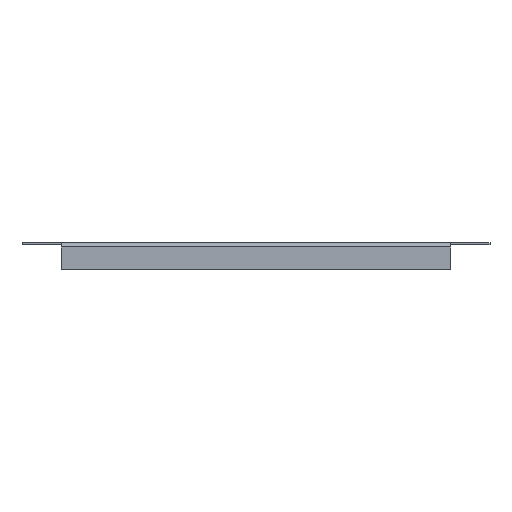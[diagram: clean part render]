
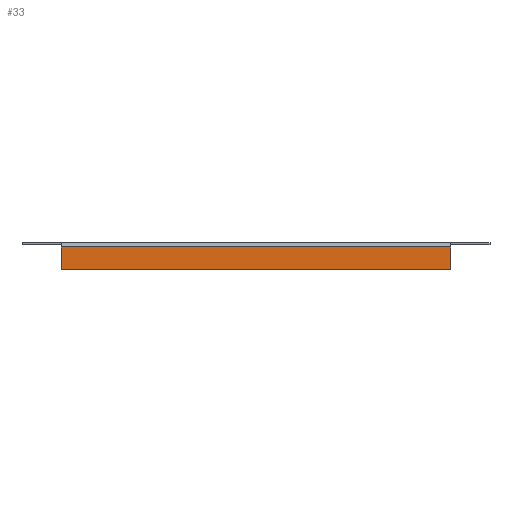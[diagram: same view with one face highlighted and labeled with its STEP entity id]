
A CAD part, front view. The second image highlights one B-rep face of the part: STEP entity #33.
In plain terms, the highlighted planar face has unit normal (0, -1, 0).
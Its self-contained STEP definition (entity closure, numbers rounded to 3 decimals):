
#13 = VERTEX_POINT ( 'NONE', #706 ) ;
#24 = VECTOR ( 'NONE', #1071, 1000. ) ;
#33 = ADVANCED_FACE ( 'NONE', ( #827 ), #1054, .F. ) ;
#48 = VECTOR ( 'NONE', #841, 1000. ) ;
#72 = CARTESIAN_POINT ( 'NONE',  ( -110.2, -74.5, -1.2 ) ) ;
#96 = CARTESIAN_POINT ( 'NONE',  ( 110.2, -74.5, -1.2 ) ) ;
#132 = CARTESIAN_POINT ( 'NONE',  ( -110.2, -74.5, -13.8 ) ) ;
#149 = CARTESIAN_POINT ( 'NONE',  ( 110.2, -74.5, 0. ) ) ;
#151 = DIRECTION ( 'NONE',  ( 1., 0., 0. ) ) ;
#192 = LINE ( 'NONE', #439, #24 ) ;
#219 = EDGE_CURVE ( 'NONE', #13, #996, #1156, .T. ) ;
#240 = DIRECTION ( 'NONE',  ( 0., 1., 0. ) ) ;
#280 = VECTOR ( 'NONE', #584, 1000. ) ;
#391 = CARTESIAN_POINT ( 'NONE',  ( 110.2, -74.5, 0. ) ) ;
#423 = DIRECTION ( 'NONE',  ( 0., 0., 1. ) ) ;
#427 = VERTEX_POINT ( 'NONE', #631 ) ;
#439 = CARTESIAN_POINT ( 'NONE',  ( 110.2, -74.5, -13.8 ) ) ;
#487 = EDGE_CURVE ( 'NONE', #427, #13, #192, .T. ) ;
#550 = ORIENTED_EDGE ( 'NONE', *, *, #666, .F. ) ;
#584 = DIRECTION ( 'NONE',  ( 0., 0., 1. ) ) ;
#607 = CARTESIAN_POINT ( 'NONE',  ( 110.2, -74.5, -1.2 ) ) ;
#611 = VERTEX_POINT ( 'NONE', #96 ) ;
#627 = ORIENTED_EDGE ( 'NONE', *, *, #219, .F. ) ;
#631 = CARTESIAN_POINT ( 'NONE',  ( 110.2, -74.5, -13.8 ) ) ;
#666 = EDGE_CURVE ( 'NONE', #611, #427, #721, .T. ) ;
#706 = CARTESIAN_POINT ( 'NONE',  ( -110.2, -74.5, -13.8 ) ) ;
#721 = LINE ( 'NONE', #391, #48 ) ;
#789 = AXIS2_PLACEMENT_3D ( 'NONE', #149, #240, #423 ) ;
#827 = FACE_OUTER_BOUND ( 'NONE', #1008, .T. ) ;
#830 = ORIENTED_EDGE ( 'NONE', *, *, #487, .F. ) ;
#841 = DIRECTION ( 'NONE',  ( 0., 0., -1. ) ) ;
#996 = VERTEX_POINT ( 'NONE', #72 ) ;
#1008 = EDGE_LOOP ( 'NONE', ( #1105, #627, #830, #550 ) ) ;
#1029 = VECTOR ( 'NONE', #151, 1000. ) ;
#1054 = PLANE ( 'NONE',  #789 ) ;
#1064 = EDGE_CURVE ( 'NONE', #996, #611, #1111, .T. ) ;
#1071 = DIRECTION ( 'NONE',  ( -1., 0., 0. ) ) ;
#1105 = ORIENTED_EDGE ( 'NONE', *, *, #1064, .F. ) ;
#1111 = LINE ( 'NONE', #607, #1029 ) ;
#1156 = LINE ( 'NONE', #132, #280 ) ;
